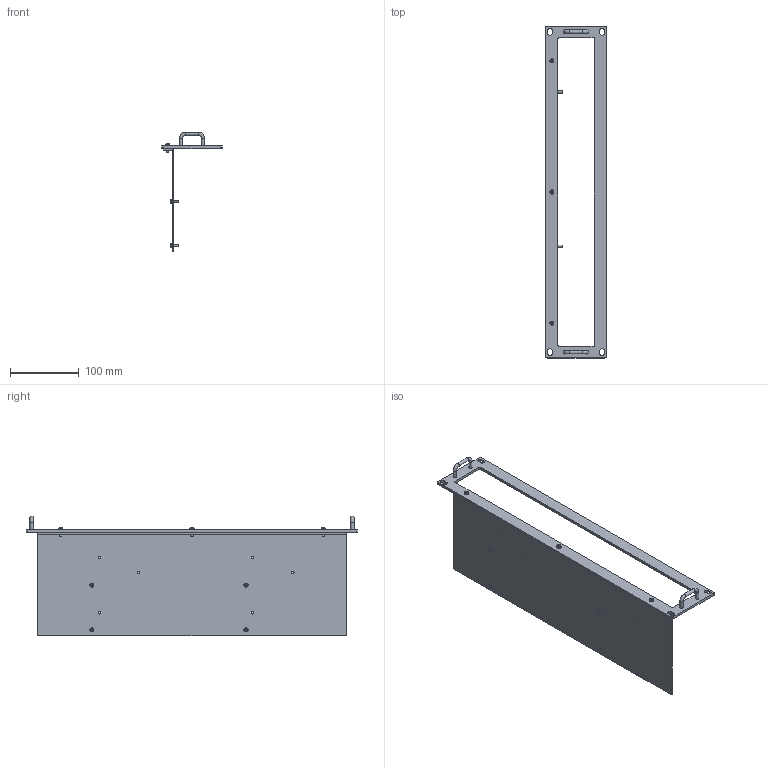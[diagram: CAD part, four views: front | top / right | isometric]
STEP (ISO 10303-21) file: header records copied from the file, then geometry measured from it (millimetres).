
FILE_DESCRIPTION(/* description */ (''),/* implementation_level */ '2;1');
FILE_NAME(/* name */ 'A:\Data\ES300\Option\RA19-2ES300\step files\RA19-2 ES.stp',/* time_stamp */ '2020-12-22T09:16:29+01:00',/* author */ ('Delta'),/* organization */ (''),/* preprocessor_version */ 'ST-DEVELOPER v17.2',/* originating_system */ 'Autodesk Inventor 2019',/* authorisation */ '');
FILE_SCHEMA (('AUTOMOTIVE_DESIGN { 1 0 10303 214 3 1 1 }'));
Length unit declared in the file: millimetre
Products named in the file (1): _Assembly RA19-2 ES_Shrinkwrap_1
Bounding box: 88.1 x 482.5 x 174 mm (x, y, z)
Volume: 219458.8 mm3; surface area: 190795.8 mm2
Topology: 1 solids, 1 shells, 467 faces, 1091 edges, 654 vertices
Faces by surface type: plane 290, cylinder 94, cone 53, torus 30
Full cylindrical faces by diameter (mm): 3 x14, 3.2 x4, 3.5 x10, 5 x6, 5.5 x4, 6 x14
Entity records: 13546 total; most frequent: CARTESIAN_POINT 2466, DIRECTION 2281, ORIENTED_EDGE 2160, EDGE_CURVE 1080, AXIS2_PLACEMENT_3D 865, VERTEX_POINT 654, LINE 551, VECTOR 551
